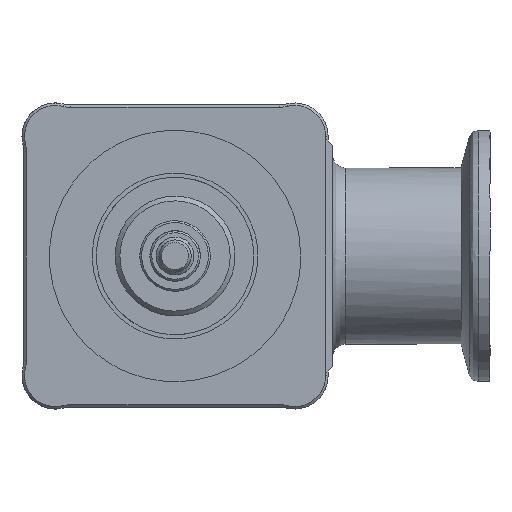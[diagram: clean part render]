
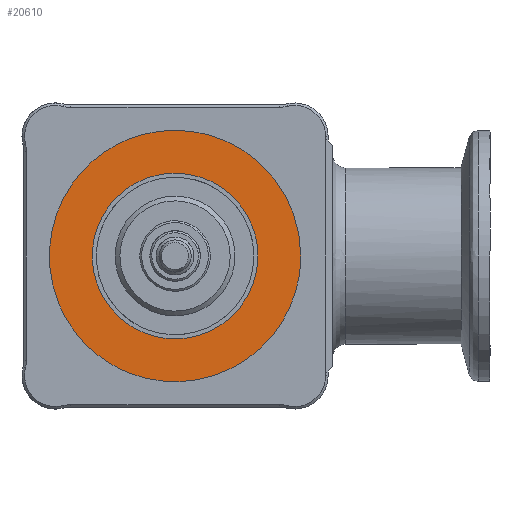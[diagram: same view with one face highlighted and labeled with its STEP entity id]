
A CAD part, front view. The second image highlights one B-rep face of the part: STEP entity #20610.
In plain terms, the highlighted free-form (B-spline) face has degree [1, 1] with [2, 2] control points.
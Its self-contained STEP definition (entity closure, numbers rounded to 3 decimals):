
#20552=CARTESIAN_POINT('V56',(13.15,-3.,
   0.0));
#20553=VERTEX_POINT('V56',#20552);
#20559=CARTESIAN_POINT('E90',(13.15,-3.,
   0.0));
#20560=CARTESIAN_POINT('E90',(13.15,-3.,
   -22.776));
#20561=CARTESIAN_POINT('E90',(-6.575,-3.,
   -11.388));
#20562=CARTESIAN_POINT('E90',(-26.3,-3.,
   0.));
#20563=CARTESIAN_POINT('E90',(-6.575,-3.,
   11.388));
#20564=CARTESIAN_POINT('E90',(13.15,-3.,
   22.776));
#20565=CARTESIAN_POINT('E90',(13.15,-3.,
   0.0));
#20573=(BOUNDED_CURVE()B_SPLINE_CURVE(2,(#20559,#20560,#20561,
   #20562,#20563,#20564,#20565),.CIRCULAR_ARC.,.T.,.U.)
   B_SPLINE_CURVE_WITH_KNOTS((3,2,2,3),(0.0,15.708,
   31.416,47.124),.UNSPECIFIED.)CURVE()
   GEOMETRIC_REPRESENTATION_ITEM()RATIONAL_B_SPLINE_CURVE((1.0,
   0.5,1.0,0.5,1.0,0.5,1.0)
   )REPRESENTATION_ITEM('E90'));
#20574=EDGE_CURVE('E90',#20553,#20553,#20573,.T.);
#20581=CARTESIAN_POINT('F42',(20.956,-3.0,
   -25.515));
#20582=CARTESIAN_POINT('F42',(20.956,-3.0,
   25.515));
#20583=CARTESIAN_POINT('F42',(-26.157,-3.0,
   -25.515));
#20584=CARTESIAN_POINT('F42',(-26.157,-3.0,
   25.515));
#20585=B_SPLINE_SURFACE_WITH_KNOTS('F42',1,1,((#20581,#20583),(
   #20582,#20584)),.PLANE_SURF.,.F.,.F.,.U.,(2,2),(2,2),(0.0,1.0),
   (0.606,1.529),.UNSPECIFIED.);
#20586=CARTESIAN_POINT('V57',(19.956,-3.,
   0.0));
#20587=VERTEX_POINT('V57',#20586);
#20588=CARTESIAN_POINT('E92',(19.956,-3.,
   0.0));
#20589=CARTESIAN_POINT('E92',(19.956,-3.,
   34.565));
#20590=CARTESIAN_POINT('E92',(-9.978,-3.,
   17.282));
#20591=CARTESIAN_POINT('E92',(-39.912,-3.,
   0.));
#20592=CARTESIAN_POINT('E92',(-9.978,-3.,
   -17.282));
#20593=CARTESIAN_POINT('E92',(19.956,-3.,
   -34.565));
#20594=CARTESIAN_POINT('E92',(19.956,-3.,
   0.0));
#20602=(BOUNDED_CURVE()B_SPLINE_CURVE(2,(#20588,#20589,#20590,
   #20591,#20592,#20593,#20594),.CIRCULAR_ARC.,.T.,.U.)
   B_SPLINE_CURVE_WITH_KNOTS((3,2,2,3),(0.0,0.333,
   0.667,1.0),.UNSPECIFIED.)CURVE()
   GEOMETRIC_REPRESENTATION_ITEM()RATIONAL_B_SPLINE_CURVE((1.0,
   0.5,1.0,0.5,1.0,0.5,1.0)
   )REPRESENTATION_ITEM('E92'));
#20603=EDGE_CURVE('E92',#20587,#20587,#20602,.T.);
#20604=ORIENTED_EDGE('E92',*,*,#20603,.F.);
#20605=EDGE_LOOP('F42',(#20604));
#20606=FACE_OUTER_BOUND('F42',#20605,.F.);
#20607=ORIENTED_EDGE('E90',*,*,#20574,.F.);
#20608=EDGE_LOOP('F42',(#20607));
#20609=FACE_BOUND('F42',#20608,.F.);
#20610=ADVANCED_FACE('F42',(#20606,#20609),#20585,.T.);
